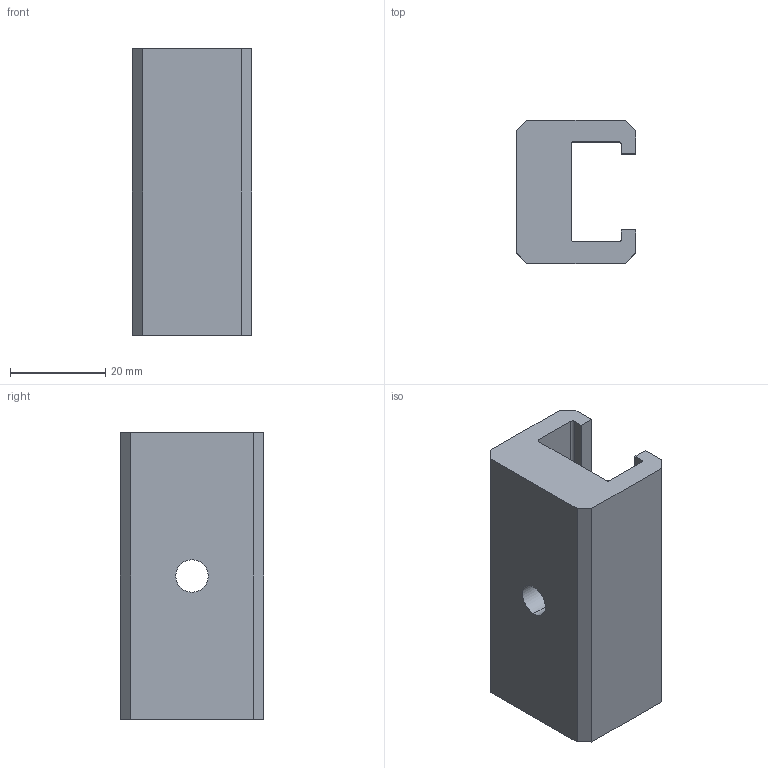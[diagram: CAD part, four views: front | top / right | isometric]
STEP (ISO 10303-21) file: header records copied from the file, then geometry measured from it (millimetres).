
FILE_DESCRIPTION (( 'STEP AP214' ), '1' );
FILE_NAME ('EL 60.step', '2017-04-05T07:36:16', ( '' ), ( '' ), 'SwSTEP 2.0', 'SolidWorks 2015', '' );
FILE_SCHEMA (( 'AUTOMOTIVE_DESIGN' ));
Length unit declared in the file: millimetre
Products named in the file (1): EL 60
Bounding box: 25 x 30 x 60 mm (x, y, z)
Volume: 27904.4 mm3; surface area: 9576.3 mm2
Topology: 1 solids, 1 shells, 24 faces, 66 edges, 44 vertices
Faces by surface type: plane 18, cylinder 6
Entity records: 822 total; most frequent: CARTESIAN_POINT 135, ORIENTED_EDGE 132, DIRECTION 128, EDGE_CURVE 66, VECTOR 54, LINE 54, VERTEX_POINT 44, AXIS2_PLACEMENT_3D 37
